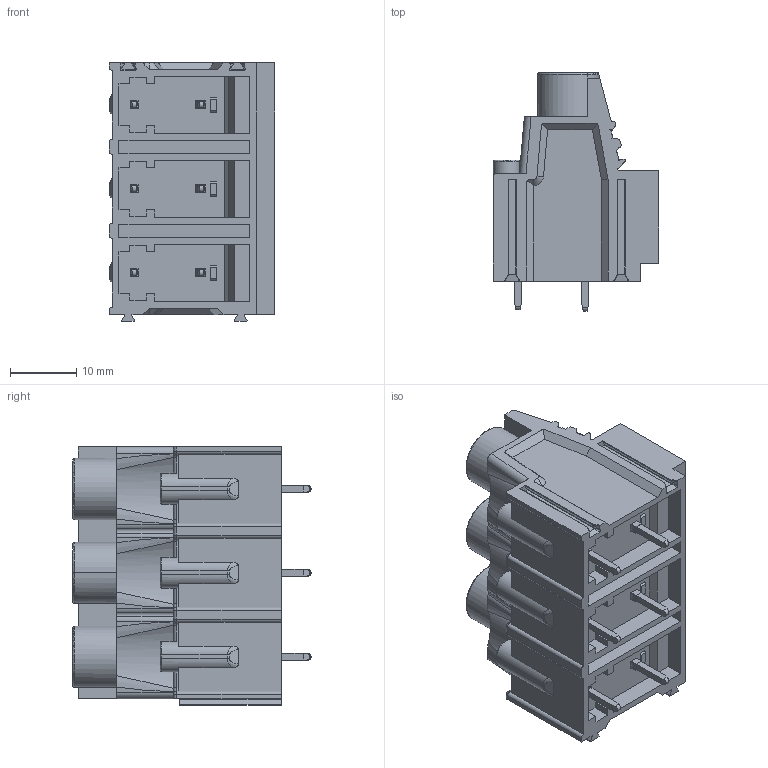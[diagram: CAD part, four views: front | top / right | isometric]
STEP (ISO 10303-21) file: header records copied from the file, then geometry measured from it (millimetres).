
FILE_DESCRIPTION((''),'2;1');
FILE_NAME('33','2019-04-17T',('zhenbing.lai'),(''),'CREO PARAMETRIC BY PTC INC, 2016260','CREO PARAMETRIC BY PTC INC, 2016260','');
FILE_SCHEMA(('CONFIG_CONTROL_DESIGN'));
Length unit declared in the file: millimetre
Products named in the file (1): 33
Bounding box: 25.1 x 36 x 39.07 mm (x, y, z)
Volume: 16221.5 mm3; surface area: 8933.4 mm2
Topology: 1 solids, 1 shells, 761 faces, 2244 edges, 1493 vertices
Faces by surface type: plane 454, cylinder 215, torus 36, cone 30, bspline 20, sphere 6
Entity records: 28714 total; most frequent: CARTESIAN_POINT 8942, ORIENTED_EDGE 4476, DIRECTION 3689, EDGE_CURVE 2238, VERTEX_POINT 1493, VECTOR 1311, LINE 1311, AXIS2_PLACEMENT_3D 1189
